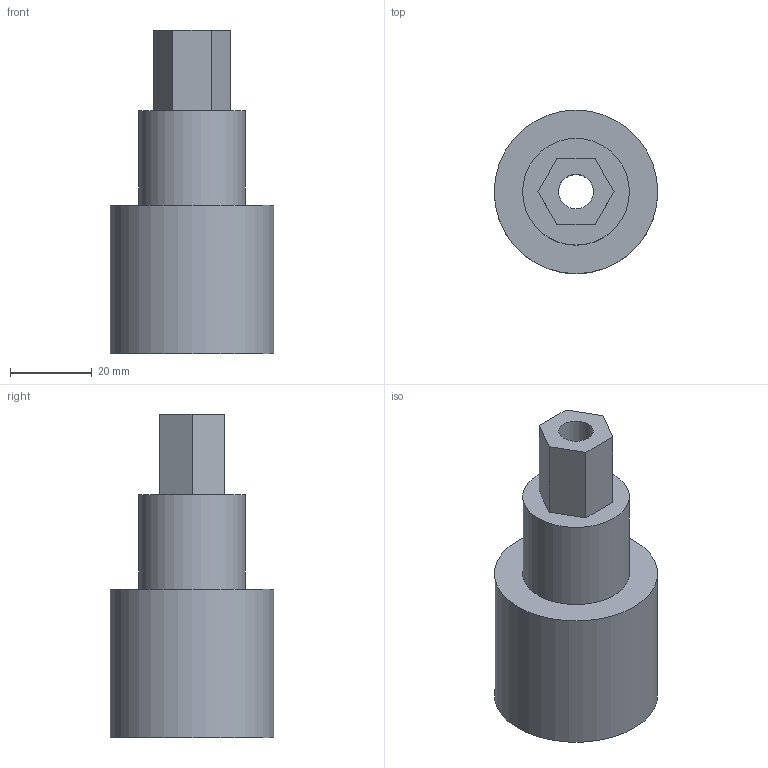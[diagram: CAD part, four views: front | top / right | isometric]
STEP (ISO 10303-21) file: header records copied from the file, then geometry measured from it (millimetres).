
FILE_DESCRIPTION(('Mechanical CAD reference from nasji.com'),'2;1');
FILE_NAME('NASJI.step','',(''),(''),'','NASJI distribution','');
FILE_SCHEMA(('AUTOMOTIVE_DESIGN { 1 0 10303 214 1 1 1 1 }'));
Length unit declared in the file: millimetre
Products named in the file (1): Open CASCADE STEP translator 7.8 200
Bounding box: 40 x 40 x 79 mm (x, y, z)
Volume: 57896.3 mm3; surface area: 12058.7 mm2
Topology: 1 solids, 1 shells, 13 faces, 27 edges, 18 vertices
Faces by surface type: plane 10, cylinder 3
Full cylindrical faces by diameter (mm): 8.5 x1, 26.1 x1, 40 x1
Entity records: 718 total; most frequent: CARTESIAN_POINT 125, DIRECTION 113, LINE 69, VECTOR 69, ORIENTED_EDGE 54, PCURVE 54, DEFINITIONAL_REPRESENTATION 54, EDGE_CURVE 27
